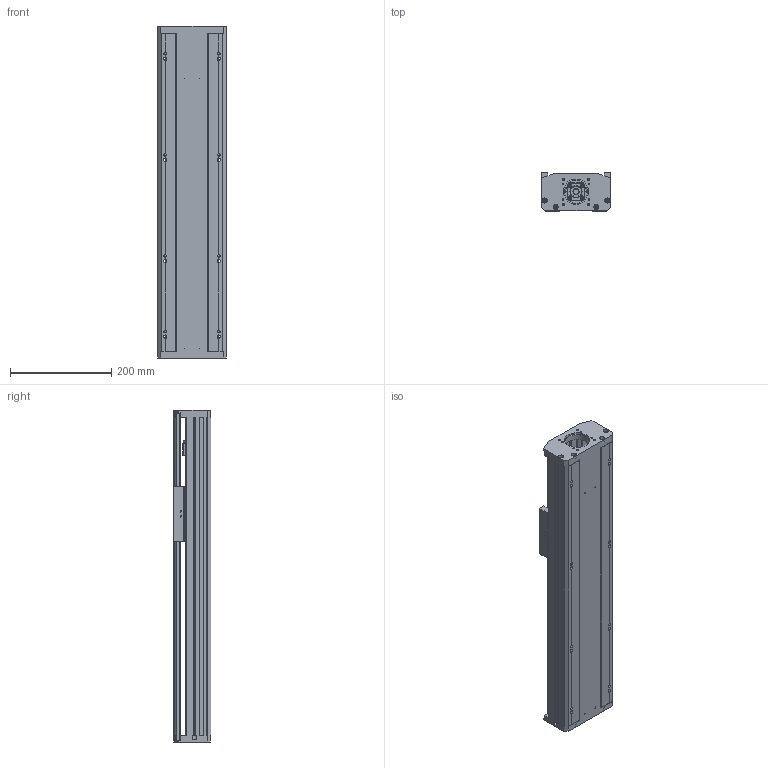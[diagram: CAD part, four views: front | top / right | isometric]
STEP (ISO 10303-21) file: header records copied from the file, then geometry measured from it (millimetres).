
FILE_DESCRIPTION(/* description */ (''),/* implementation_level */ '2;1');
FILE_NAME(/* name */ 'TKA136-F0-400_asm1_stp.stp',/* time_stamp */ '2016-09-08T08:27:32+08:00',/* author */ (''),/* organization */ (''),/* preprocessor_version */ 'ST-DEVELOPER v15',/* originating_system */ 'SIEMENS PLM Software NX 8.5',/* authorisation */ '');
FILE_SCHEMA (('AUTOMOTIVE_DESIGN { 1 0 10303 214 3 1 1 1 }'));
Length unit declared in the file: millimetre
Products named in the file (3): 400-02; 400-01; TKA136-F0-400_asm1_stp
Assembly tree (2 placements, depth 2):
  TKA136-F0-400_asm1_stp
    400-01
    400-02
Bounding box: 136 x 75 x 657 mm (x, y, z)
Volume: 2230268 mm3; surface area: 805085.8 mm2
Topology: 2 solids, 12 shells, 797 faces, 2185 edges, 1418 vertices
Faces by surface type: plane 381, cylinder 362, cone 54
Full cylindrical faces by diameter (mm): 2.5 x4, 3 x2, 3.3 x12, 4 x4, 4.2 x10, 4.5 x20, 5 x12, 5.5 x26, 6.6 x12, 8 x20, 10 x9, 10.5 x8, 11 x4, 11.6 x1, 12 x9, 15 x3, 16 x5, 17 x1, 24 x5, 26 x1, 28 x1, 46 x1, 50 x1
Entity records: 26230 total; most frequent: CARTESIAN_POINT 6940, DIRECTION 4007, ORIENTED_EDGE 3712, EDGE_CURVE 1856, AXIS2_PLACEMENT_3D 1523, VERTEX_POINT 1340, EDGE_LOOP 1162, LINE 961
